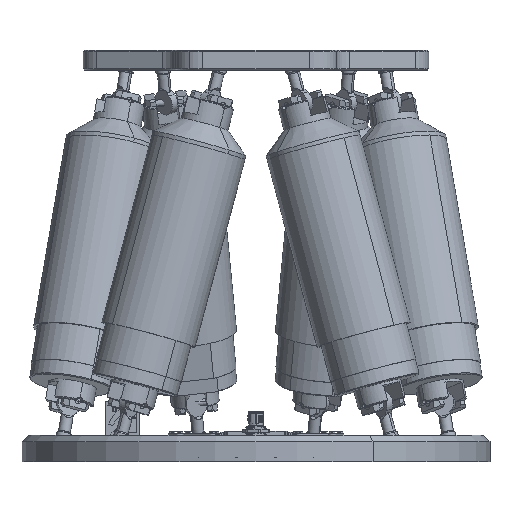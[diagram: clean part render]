
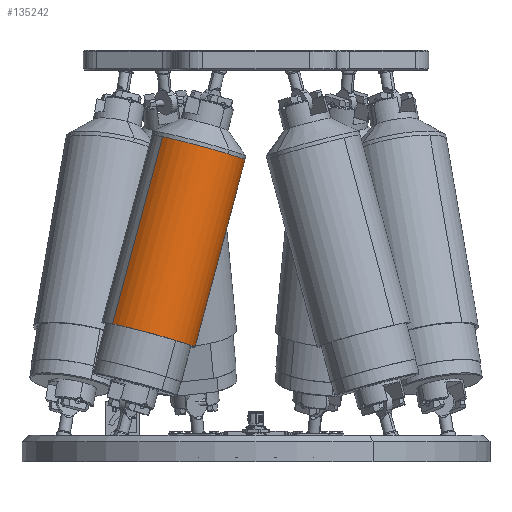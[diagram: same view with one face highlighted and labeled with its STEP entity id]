
A CAD part, left-side view. The second image highlights one B-rep face of the part: STEP entity #135242.
In plain terms, the highlighted cylindrical face has radius 36 mm (diameter 72 mm), a partial arc.
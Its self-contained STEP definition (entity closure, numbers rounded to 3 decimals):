
#11307 = EDGE_LOOP ( 'NONE', ( #29364, #29365, #29366, #29367 ) ) ;
#19702 = EDGE_CURVE ( 'NONE', #24863, #24865, #57569, .T. ) ;
#19704 = EDGE_CURVE ( 'NONE', #24865, #24875, #57573, .T. ) ;
#19709 = EDGE_CURVE ( 'NONE', #24873, #24875, #57579, .T. ) ;
#19712 = EDGE_CURVE ( 'NONE', #24863, #24873, #57577, .T. ) ;
#24863 = VERTEX_POINT ( 'NONE', #62127 ) ;
#24865 = VERTEX_POINT ( 'NONE', #62128 ) ;
#24873 = VERTEX_POINT ( 'NONE', #62132 ) ;
#24875 = VERTEX_POINT ( 'NONE', #62133 ) ;
#29364 = ORIENTED_EDGE ( 'NONE', *, *, #19702, .T. ) ;
#29365 = ORIENTED_EDGE ( 'NONE', *, *, #19704, .T. ) ;
#29366 = ORIENTED_EDGE ( 'NONE', *, *, #19709, .F. ) ;
#29367 = ORIENTED_EDGE ( 'NONE', *, *, #19712, .F. ) ;
#48285 = AXIS2_PLACEMENT_3D ( 'NONE', #59576, #59577, #59578 ) ;
#48286 = AXIS2_PLACEMENT_3D ( 'NONE', #59580, #59581, #59582 ) ;
#57569 = CIRCLE ( 'NONE', #48285, 36. ) ;
#57573 = LINE ( 'NONE', #59575, #57581 ) ;
#57577 = LINE ( 'NONE', #59579, #57586 ) ;
#57579 = CIRCLE ( 'NONE', #48286, 36. ) ;
#57581 = VECTOR ( 'NONE', #59573, 1000. ) ;
#57586 = VECTOR ( 'NONE', #59574, 1000. ) ;
#59573 = DIRECTION ( 'NONE',  ( -0.042, 0.258, -0.965 ) ) ;
#59574 = DIRECTION ( 'NONE',  ( -0.042, 0.258, -0.965 ) ) ;
#59575 = CARTESIAN_POINT ( 'NONE',  ( -129.124, 118.104, 62.515 ) ) ;
#59576 = CARTESIAN_POINT ( 'NONE',  ( -98.618, 43.056, 235.095 ) ) ;
#59577 = DIRECTION ( 'NONE',  ( -0.042, 0.258, -0.965 ) ) ;
#59578 = DIRECTION ( 'NONE',  ( 0.631, -0.742, -0.226 ) ) ;
#59579 = CARTESIAN_POINT ( 'NONE',  ( -83.666, 64.685, 46.269 ) ) ;
#59580 = CARTESIAN_POINT ( 'NONE',  ( -104.641, 80.494, 95.141 ) ) ;
#59581 = DIRECTION ( 'NONE',  ( -0.042, 0.258, -0.965 ) ) ;
#59582 = DIRECTION ( 'NONE',  ( 0.631, -0.742, -0.226 ) ) ;
#62127 = CARTESIAN_POINT ( 'NONE',  ( -75.889, 16.346, 226.971 ) ) ;
#62128 = CARTESIAN_POINT ( 'NONE',  ( -121.347, 69.765, 243.218 ) ) ;
#62132 = CARTESIAN_POINT ( 'NONE',  ( -81.912, 53.784, 87.018 ) ) ;
#62133 = CARTESIAN_POINT ( 'NONE',  ( -127.37, 107.204, 103.264 ) ) ;
#135242 = ADVANCED_FACE ( 'NONE', ( #142294 ), #142302, .T. ) ;
#139533 = AXIS2_PLACEMENT_3D ( 'NONE', #141724, #141725, #141733 ) ;
#141724 = CARTESIAN_POINT ( 'NONE',  ( -106.395, 91.395, 54.392 ) ) ;
#141725 = DIRECTION ( 'NONE',  ( -0.042, 0.258, -0.965 ) ) ;
#141733 = DIRECTION ( 'NONE',  ( 0.631, -0.742, -0.226 ) ) ;
#142294 = FACE_OUTER_BOUND ( 'NONE', #11307, .T. ) ;
#142302 = CYLINDRICAL_SURFACE ( 'NONE', #139533, 36. ) ;
